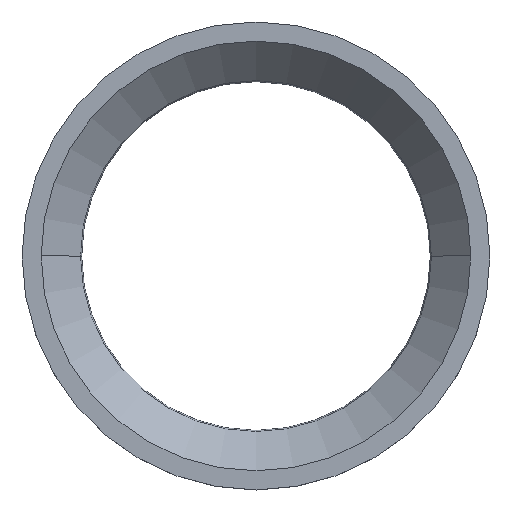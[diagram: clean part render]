
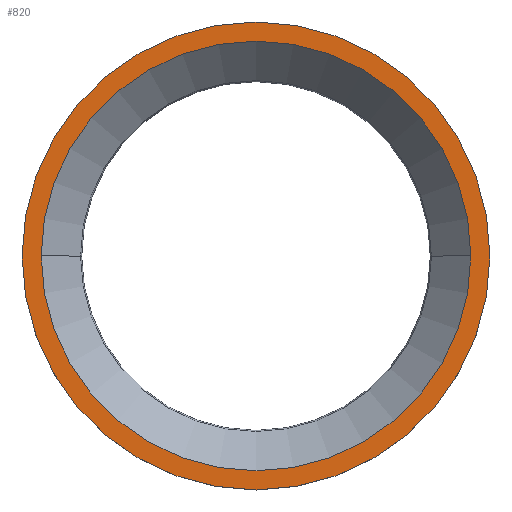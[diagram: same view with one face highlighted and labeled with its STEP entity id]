
A CAD part, top view. The second image highlights one B-rep face of the part: STEP entity #820.
In plain terms, the highlighted planar face has unit normal (0, 0, 1).
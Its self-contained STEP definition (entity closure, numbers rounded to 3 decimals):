
#125=CARTESIAN_POINT('',(0.,0.,26.));
#126=DIRECTION('',(0.,0.,1.));
#127=DIRECTION('',(1.,0.,0.));
#128=AXIS2_PLACEMENT_3D('',#125,#126,#127);
#130=CARTESIAN_POINT('',(0.,0.,26.));
#131=DIRECTION('',(0.,0.,1.));
#132=DIRECTION('',(-1.,0.,0.));
#133=AXIS2_PLACEMENT_3D('',#130,#131,#132);
#135=CARTESIAN_POINT('',(0.,0.,
26.));
#136=DIRECTION('',(0.,0.,-1.));
#137=DIRECTION('',(1.,0.,0.));
#138=AXIS2_PLACEMENT_3D('',#135,#136,#137);
#140=CARTESIAN_POINT('',(0.,0.,
26.));
#141=DIRECTION('',(0.,0.,-1.));
#142=DIRECTION('',(-1.,0.,0.));
#143=AXIS2_PLACEMENT_3D('',#140,#141,#142);
#515=CARTESIAN_POINT('',(104.,0.,26.));
#516=CARTESIAN_POINT('',(-104.,0.,26.));
#517=VERTEX_POINT('',#515);
#518=VERTEX_POINT('',#516);
#519=CARTESIAN_POINT('',(95.5,0.,
26.));
#520=CARTESIAN_POINT('',(-95.5,0.,26.));
#521=VERTEX_POINT('',#519);
#522=VERTEX_POINT('',#520);
#805=CARTESIAN_POINT('',(0.,0.,26.));
#806=DIRECTION('',(0.,0.,1.));
#807=DIRECTION('',(1.,0.,0.));
#808=AXIS2_PLACEMENT_3D('',#805,#806,#807);
#809=PLANE('',#808);
#811=ORIENTED_EDGE('',*,*,#810,.F.);
#813=ORIENTED_EDGE('',*,*,#812,.F.);
#814=EDGE_LOOP('',(#811,#813));
#815=FACE_OUTER_BOUND('',#814,.F.);
#816=ORIENTED_EDGE('',*,*,#785,.F.);
#817=ORIENTED_EDGE('',*,*,#799,.F.);
#818=EDGE_LOOP('',(#816,#817));
#819=FACE_BOUND('',#818,.F.);
#129=CIRCLE('',#128,104.);
#134=CIRCLE('',#133,104.);
#139=CIRCLE('',#138,95.5);
#144=CIRCLE('',#143,95.5);
#785=EDGE_CURVE('',#521,#522,#139,.T.);
#799=EDGE_CURVE('',#522,#521,#144,.T.);
#810=EDGE_CURVE('',#517,#518,#129,.T.);
#812=EDGE_CURVE('',#518,#517,#134,.T.);
#820=ADVANCED_FACE('',(#815,#819),#809,.T.);
